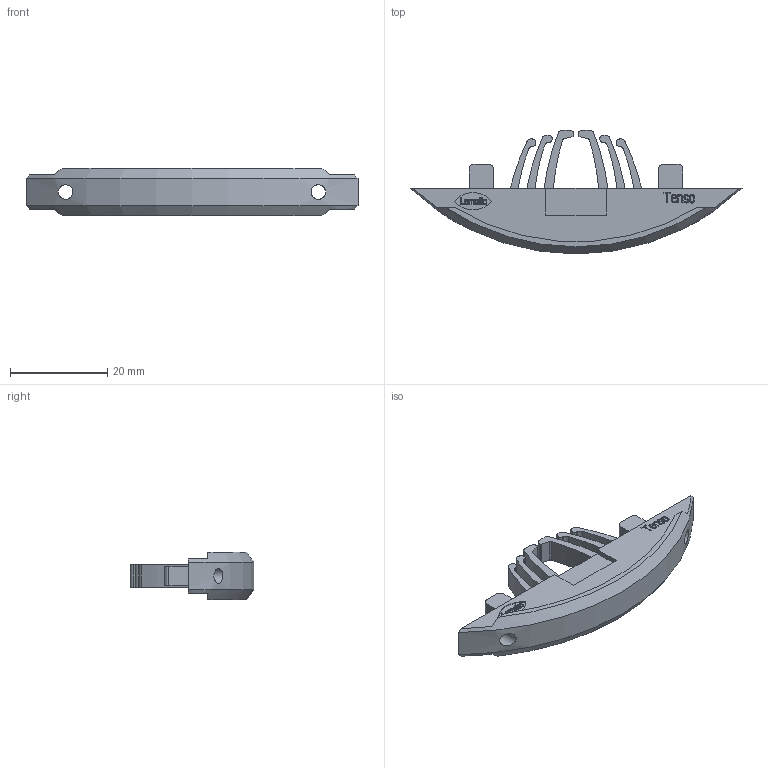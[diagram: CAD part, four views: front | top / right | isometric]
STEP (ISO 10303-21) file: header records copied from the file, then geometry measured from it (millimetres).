
FILE_DESCRIPTION(/* description */ (''),/* implementation_level */ '2;1');
FILE_NAME(/* name */ 'C:\Users\matthiask.LAMELLONET\Desktop\Öfftentliche Daten\CAD-Tenso P-14\Tenso_P-14_Verbinderhaelfte_mit_Feder.stp',/* time_stamp */ '2022-06-30T15:14:10+02:00',/* author */ ('matthiask'),/* organization */ (''),/* preprocessor_version */ 'ST-DEVELOPER v18',/* originating_system */ 'Autodesk Inventor 2020',/* authorisation */ '');
FILE_SCHEMA (('AUTOMOTIVE_DESIGN { 1 0 10303 214 3 1 1 }'));
Length unit declared in the file: millimetre
Products named in the file (1): Tenso Federteil 
Bounding box: 68.34 x 25.51 x 9.8 mm (x, y, z)
Volume: 5008.9 mm3; surface area: 3684.1 mm2
Topology: 1 solids, 1 shells, 280 faces, 758 edges, 508 vertices
Faces by surface type: plane 137, bspline 92, cylinder 49, cone 2
Full cylindrical faces by diameter (mm): 3 x2, 6 x2
Entity records: 9518 total; most frequent: CARTESIAN_POINT 2958, ORIENTED_EDGE 1516, DIRECTION 1048, EDGE_CURVE 758, VERTEX_POINT 508, LINE 454, VECTOR 454, EDGE_LOOP 312
